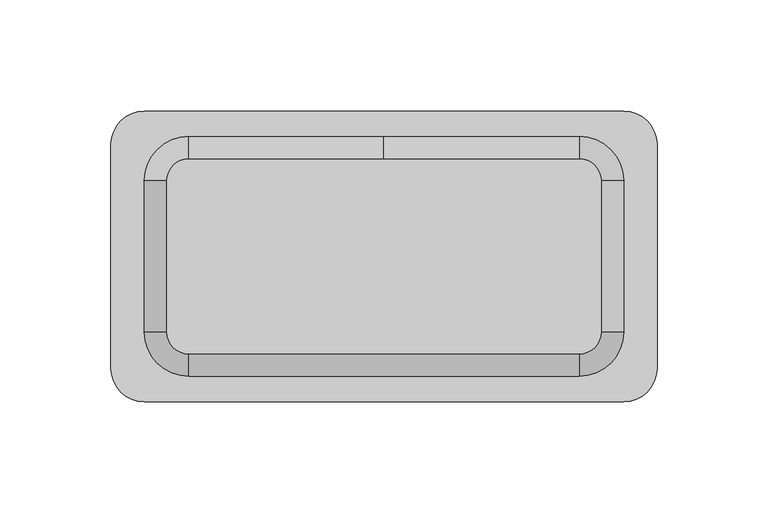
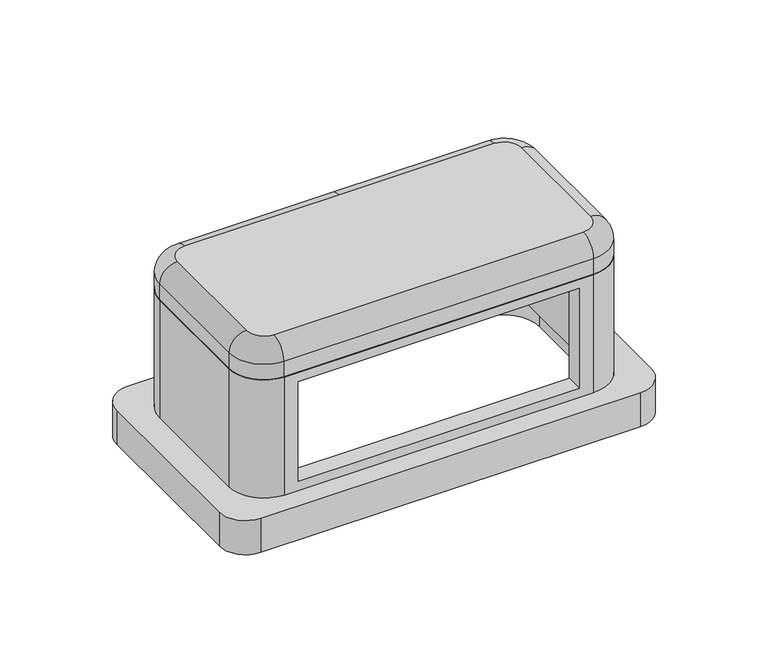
"""IFC4 building model written with IfcOpenShell, lengths in millimetres: proxy geometry, КНС_НапольнаяДвухсторонняяБашенкаBUS_ILF_DKC : Напольная двухсторонняя башенка BUS_ILF_DKC."""

from ifc_helpers import new_model, si_unit, point, frame, frame_2d, origin, origin_with_axes, place, context, project, spatial, polyline, circle_curve, ellipse_curve, trimmed, segment, composite_curve, outline, extrude, source, transform, mapped, element, save
from ifc_brep_helpers import plane_surface, cylinder_surface, revolved_surface, advanced_brep


def electrical_fixtures_2df1c550(model_context):
    return source(origin(), model_context, "Body", "SolidModel", [
        advanced_brep(
        [(88.0, 54.0, 91.5), (-88.0, 54.0, 91.5), (-108.0, 34.0, 91.5), (-108.0, -34.0, 91.5), (-88.0, -54.0, 91.5), (88.0, -54.0, 91.5), (108.0, -34.0, 91.5), (108.0, 34.0, 91.5), (88.0, 44.0, 91.5), (98.0, 34.0, 91.5), (98.0, -34.0, 91.5), (88.0, -44.0, 91.5), (-88.0, -44.0, 91.5), (-98.0, -34.0, 91.5), (-98.0, 34.0, 91.5), (-88.0, 44.0, 91.5), (88.0, 54.0, 20.5), (108.0, 34.0, 20.5), (108.0, -34.0, 20.5), (88.0, -54.0, 20.5), (-88.0, -54.0, 20.5), (-108.0, -34.0, 20.5), (-108.0, 34.0, 20.5), (-88.0, 54.0, 20.5), (88.0, 44.0, 20.5), (-88.0, 44.0, 20.5), (-98.0, 34.0, 20.5), (-98.0, -34.0, 20.5), (-88.0, -44.0, 20.5), (88.0, -44.0, 20.5), (98.0, -34.0, 20.5), (98.0, 34.0, 20.5), (-80.0, -54.0, 86.0), (80.0, -54.0, 86.0), (80.0, -54.0, 26.0), (-80.0, -54.0, 26.0), (80.0, -44.0, 86.0), (-80.0, -44.0, 86.0), (-80.0, -44.0, 26.0), (80.0, -44.0, 26.0)],
        [
            (0, 1),
            (1, 2, circle_curve(frame((-88.0, 34.0, 91.5), z_axis=(0.0, 0.0, 1.0), x_axis=(1.0, 0.0, 0.0)), 20.0)),
            (2, 3),
            (3, 4, circle_curve(frame((-88.0, -34.0, 91.5), z_axis=(0.0, 0.0, 1.0), x_axis=(1.0, 0.0, 0.0)), 20.0)),
            (4, 5),
            (5, 6, circle_curve(frame((88.0, -34.0, 91.5), z_axis=(0.0, 0.0, 1.0), x_axis=(1.0, 0.0, 0.0)), 20.0)),
            (6, 7),
            (7, 0, circle_curve(frame((88.0, 34.0, 91.5), z_axis=(0.0, 0.0, 1.0), x_axis=(1.0, 0.0, 0.0)), 20.0)),
            (8, 9, circle_curve(frame((88.0, 34.0, 91.5), z_axis=(0.0, 0.0, -1.0), x_axis=(1.0, 0.0, 0.0)), 10.0)),
            (9, 10),
            (10, 11, circle_curve(frame((88.0, -34.0, 91.5), z_axis=(0.0, 0.0, -1.0), x_axis=(1.0, 0.0, 0.0)), 10.0)),
            (11, 12),
            (12, 13, circle_curve(frame((-88.0, -34.0, 91.5), z_axis=(0.0, 0.0, -1.0), x_axis=(1.0, 0.0, 0.0)), 10.0)),
            (13, 14),
            (14, 15, circle_curve(frame((-88.0, 34.0, 91.5), z_axis=(0.0, 0.0, -1.0), x_axis=(1.0, 0.0, 0.0)), 10.0)),
            (15, 8),
            (16, 17, circle_curve(frame((88.0, 34.0, 20.5), z_axis=(0.0, 0.0, -1.0), x_axis=(1.0, 0.0, 0.0)), 20.0)),
            (17, 18),
            (18, 19, circle_curve(frame((88.0, -34.0, 20.5), z_axis=(0.0, 0.0, -1.0), x_axis=(1.0, 0.0, 0.0)), 20.0)),
            (19, 20),
            (20, 21, circle_curve(frame((-88.0, -34.0, 20.5), z_axis=(0.0, 0.0, -1.0), x_axis=(1.0, 0.0, 0.0)), 20.0)),
            (21, 22),
            (22, 23, circle_curve(frame((-88.0, 34.0, 20.5), z_axis=(0.0, 0.0, -1.0), x_axis=(1.0, 0.0, 0.0)), 20.0)),
            (23, 16),
            (24, 25),
            (25, 26, circle_curve(frame((-88.0, 34.0, 20.5), z_axis=(0.0, 0.0, 1.0), x_axis=(1.0, 0.0, 0.0)), 10.0)),
            (26, 27),
            (27, 28, circle_curve(frame((-88.0, -34.0, 20.5), z_axis=(0.0, 0.0, 1.0), x_axis=(1.0, 0.0, 0.0)), 10.0)),
            (28, 29),
            (29, 30, circle_curve(frame((88.0, -34.0, 20.5), z_axis=(0.0, 0.0, 1.0), x_axis=(1.0, 0.0, 0.0)), 10.0)),
            (30, 31),
            (31, 24, circle_curve(frame((88.0, 34.0, 20.5), z_axis=(0.0, 0.0, 1.0), x_axis=(1.0, 0.0, 0.0)), 10.0)),
            (0, 16),
            (23, 1),
            (22, 2),
            (21, 3),
            (20, 4),
            (19, 5),
            (32, 33),
            (33, 34),
            (34, 35),
            (35, 32),
            (18, 6),
            (17, 7),
            (8, 24),
            (31, 9),
            (30, 10),
            (29, 11),
            (28, 12),
            (36, 37),
            (37, 38),
            (38, 39),
            (39, 36),
            (27, 13),
            (26, 14),
            (25, 15),
            (32, 37),
            (36, 33),
            (35, 38),
            (34, 39),
        ],
        [
            plane_surface(frame((-108.0, 54.0, 91.5), z_axis=(0.0, 0.0, 1.0), x_axis=(-1.0, 0.0, 0.0))),
            plane_surface(frame((-108.0, 54.0, 20.5), z_axis=(0.0, 0.0, -1.0), x_axis=(1.0, 0.0, 0.0))),
            plane_surface(frame((88.0, 54.0, 91.5), z_axis=(0.0, 1.0, 0.0), x_axis=(0.0, 0.0, -1.0))),
            cylinder_surface(frame((-88.0, 34.0, 20.5), z_axis=(0.0, 0.0, 1.0), x_axis=(1.0, 0.0, 0.0)), 20.0),
            plane_surface(frame((-108.0, 34.0, 91.5), z_axis=(-1.0, 0.0, 0.0), x_axis=(0.0, 0.0, -1.0))),
            cylinder_surface(frame((-88.0, -34.0, 20.5), z_axis=(0.0, 0.0, 1.0), x_axis=(1.0, 0.0, 0.0)), 20.0),
            plane_surface(frame((-88.0, -54.0, 91.5), z_axis=(0.0, -1.0, 0.0), x_axis=(0.0, 0.0, -1.0))),
            cylinder_surface(frame((88.0, -34.0, 20.5), z_axis=(0.0, 0.0, 1.0), x_axis=(1.0, 0.0, 0.0)), 20.0),
            plane_surface(frame((108.0, -34.0, 91.5), z_axis=(1.0, 0.0, 0.0), x_axis=(0.0, 0.0, -1.0))),
            cylinder_surface(frame((88.0, 34.0, 20.5), z_axis=(0.0, 0.0, 1.0), x_axis=(1.0, 0.0, 0.0)), 20.0),
            revolved_surface(polyline([(98.0, 34.0, 20.5), (98.0, 34.0, 91.5)]), (88.0, 34.0, 20.5), (0.0, 0.0, -1.0)),
            plane_surface(frame((98.0, 34.0, 91.5), z_axis=(-1.0, 0.0, 0.0), x_axis=(0.0, 0.0, -1.0))),
            revolved_surface(polyline([(98.0, -34.0, 20.5), (98.0, -34.0, 91.5)]), (88.0, -34.0, 20.5), (0.0, 0.0, -1.0)),
            plane_surface(frame((88.0, -44.0, 91.5), z_axis=(0.0, 1.0, 0.0), x_axis=(0.0, 0.0, -1.0))),
            revolved_surface(polyline([(-78.0, -34.0, 20.5), (-78.0, -34.0, 91.5)]), (-88.0, -34.0, 20.5), (0.0, 0.0, -1.0)),
            plane_surface(frame((-98.0, -34.0, 91.5), z_axis=(1.0, 0.0, 0.0), x_axis=(0.0, 0.0, -1.0))),
            revolved_surface(polyline([(-78.0, 34.0, 20.5), (-78.0, 34.0, 91.5)]), (-88.0, 34.0, 20.5), (0.0, 0.0, -1.0)),
            plane_surface(frame((-88.0, 44.0, 91.5), z_axis=(0.0, -1.0, 0.0), x_axis=(0.0, 0.0, -1.0))),
            plane_surface(frame((80.0, -54.0, 86.0), z_axis=(0.0, 0.0, -1.0), x_axis=(0.0, 1.0, 0.0))),
            plane_surface(frame((-80.0, -54.0, 86.0), z_axis=(1.0, 0.0, 0.0), x_axis=(0.0, 1.0, 0.0))),
            plane_surface(frame((-80.0, -54.0, 26.0), z_axis=(0.0, 0.0, 1.0), x_axis=(0.0, 1.0, 0.0))),
            plane_surface(frame((80.0, -54.0, 26.0), z_axis=(-1.0, 0.0, 0.0), x_axis=(0.0, 1.0, 0.0))),
        ],
        [
            (0, [[1, 2, 3, 4, 5, 6, 7, 8], [9, 10, 11, 12, 13, 14, 15, 16]]),
            (1, [[17, 18, 19, 20, 21, 22, 23, 24], [25, 26, 27, 28, 29, 30, 31, 32]]),
            (2, [[-1, 33, -24, 34]]),
            (3, [[-2, -34, -23, 35]]),
            (4, [[-3, -35, -22, 36]]),
            (5, [[-4, -36, -21, 37]]),
            (6, [[-5, -37, -20, 38], [39, 40, 41, 42]]),
            (7, [[-6, -38, -19, 43]]),
            (8, [[-7, -43, -18, 44]]),
            (9, [[-8, -44, -17, -33]]),
            (10, [[-9, 45, -32, 46]]),
            (11, [[-10, -46, -31, 47]]),
            (12, [[-11, -47, -30, 48]]),
            (13, [[-12, -48, -29, 49], [50, 51, 52, 53]]),
            (14, [[-13, -49, -28, 54]]),
            (15, [[-14, -54, -27, 55]]),
            (16, [[-15, -55, -26, 56]]),
            (17, [[-16, -56, -25, -45]]),
            (18, [[57, -50, 58, -39]]),
            (19, [[-57, -42, 59, -51]]),
            (20, [[-59, -41, 60, -52]]),
            (21, [[-58, -53, -60, -40]]),
        ],
    ),
        advanced_brep(
        [(-108.0, 34.0, 101.0), (-108.0, 34.0, 91.5), (-108.0, -34.0, 91.5), (-108.0, -34.0, 101.0), (-98.0, -34.0, 111.0), (-98.0, 34.0, 111.0), (-88.0, -54.0, 101.0), (-88.0, -54.0, 91.5), (88.0, -54.0, 91.5), (88.0, -54.0, 101.0), (88.0, -44.0, 111.0), (-88.0, -44.0, 111.0), (108.0, -34.0, 101.0), (108.0, -34.0, 91.5), (108.0, 34.0, 91.5), (108.0, 34.0, 101.0), (98.0, 34.0, 111.0), (98.0, -34.0, 111.0), (88.0, 54.0, 101.0), (88.0, 54.0, 91.5), (-88.0, 54.0, 91.5), (-88.0, 54.0, 101.0), (0.0, 54.0, 101.0), (0.0, 44.0, 111.0), (88.0, 44.0, 111.0), (-88.0, 44.0, 111.0)],
        [
            (0, 1),
            (1, 2),
            (2, 3),
            (3, 0),
            (3, 4, circle_curve(frame((-98.0, -34.0, 101.0), z_axis=(0.0, 1.0, 0.0), x_axis=(1.0, 0.0, 0.0)), 10.0)),
            (4, 5),
            (5, 0, circle_curve(frame((-98.0, 34.0, 101.0), z_axis=(0.0, -1.0, 0.0), x_axis=(1.0, 0.0, 0.0)), 10.0)),
            (6, 7),
            (7, 8),
            (8, 9),
            (9, 6),
            (9, 10, circle_curve(frame((88.0, -44.0, 101.0), z_axis=(-1.0, 0.0, 0.0), x_axis=(0.0, 1.0, 0.0)), 10.0)),
            (10, 11),
            (11, 6, circle_curve(frame((-88.0, -44.0, 101.0), z_axis=(1.0, 0.0, 0.0), x_axis=(0.0, 1.0, 0.0)), 10.0)),
            (12, 13),
            (13, 14),
            (14, 15),
            (15, 12),
            (15, 16, circle_curve(frame((98.0, 34.0, 101.0), z_axis=(0.0, -1.0, 0.0), x_axis=(-1.0, 0.0, 0.0)), 10.0)),
            (16, 17),
            (17, 12, circle_curve(frame((98.0, -34.0, 101.0), z_axis=(0.0, 1.0, 0.0), x_axis=(-1.0, 0.0, 0.0)), 10.0)),
            (18, 19),
            (19, 20),
            (20, 21),
            (21, 22),
            (22, 18),
            (22, 23, circle_curve(frame((0.0, 44.0, 101.0), z_axis=(1.0, 0.0, 0.0), x_axis=(0.0, -1.0, 0.0)), 10.0)),
            (23, 24),
            (24, 18, circle_curve(frame((88.0, 44.0, 101.0), z_axis=(-1.0, 0.0, 0.0), x_axis=(0.0, -1.0, 0.0)), 10.0)),
            (21, 25, circle_curve(frame((-88.0, 44.0, 101.0), z_axis=(1.0, 0.0, 0.0), x_axis=(0.0, -1.0, 0.0)), 10.0)),
            (25, 23),
            (0, 21, circle_curve(frame((-88.0, 34.0, 101.0), z_axis=(0.0, 0.0, -1.0), x_axis=(0.0, 1.0, 0.0)), 20.0)),
            (20, 1, circle_curve(frame((-88.0, 34.0, 91.5), z_axis=(0.0, 0.0, 1.0), x_axis=(0.0, 1.0, 0.0)), 20.0)),
            (5, 25, circle_curve(frame((-88.0, 34.0, 111.0), z_axis=(0.0, 0.0, -1.0), x_axis=(0.0, 1.0, 0.0)), 10.0)),
            (2, 7, circle_curve(frame((-88.0, -34.0, 91.5), z_axis=(0.0, 0.0, 1.0), x_axis=(-1.0, 0.0, 0.0)), 20.0)),
            (6, 3, circle_curve(frame((-88.0, -34.0, 101.0), z_axis=(0.0, 0.0, -1.0), x_axis=(-1.0, 0.0, 0.0)), 20.0)),
            (11, 4, circle_curve(frame((-88.0, -34.0, 111.0), z_axis=(0.0, 0.0, -1.0), x_axis=(-1.0, 0.0, 0.0)), 10.0)),
            (8, 13, circle_curve(frame((88.0, -34.0, 91.5), z_axis=(0.0, 0.0, 1.0), x_axis=(0.0, -1.0, 0.0)), 20.0)),
            (12, 9, circle_curve(frame((88.0, -34.0, 101.0), z_axis=(0.0, 0.0, -1.0), x_axis=(0.0, -1.0, 0.0)), 20.0)),
            (17, 10, circle_curve(frame((88.0, -34.0, 111.0), z_axis=(0.0, 0.0, -1.0), x_axis=(0.0, -1.0, 0.0)), 10.0)),
            (14, 19, circle_curve(frame((88.0, 34.0, 91.5), z_axis=(0.0, 0.0, 1.0), x_axis=(1.0, 0.0, 0.0)), 20.0)),
            (18, 15, circle_curve(frame((88.0, 34.0, 101.0), z_axis=(0.0, 0.0, -1.0), x_axis=(1.0, 0.0, 0.0)), 20.0)),
            (24, 16, circle_curve(frame((88.0, 34.0, 111.0), z_axis=(0.0, 0.0, -1.0), x_axis=(1.0, 0.0, 0.0)), 10.0)),
        ],
        [
            plane_surface(frame((-108.0, 34.0, 91.5), z_axis=(-1.0, 0.0, 0.0), x_axis=(0.0, -1.0, 0.0))),
            cylinder_surface(frame((-98.0, 34.0, 101.0), z_axis=(0.0, 1.0, 0.0), x_axis=(1.0, 0.0, 0.0)), 10.0),
            plane_surface(frame((-88.0, -54.0, 91.5), z_axis=(0.0, -1.0, 0.0), x_axis=(1.0, 0.0, 0.0))),
            cylinder_surface(frame((-88.0, -44.0, 101.0), z_axis=(-1.0, 0.0, 0.0), x_axis=(0.0, 1.0, 0.0)), 10.0),
            plane_surface(frame((108.0, -34.0, 91.5), z_axis=(1.0, 0.0, 0.0), x_axis=(0.0, 1.0, 0.0))),
            cylinder_surface(frame((98.0, -34.0, 101.0), z_axis=(0.0, -1.0, 0.0), x_axis=(-1.0, 0.0, 0.0)), 10.0),
            plane_surface(frame((88.0, 54.0, 91.5), z_axis=(0.0, 1.0, 0.0), x_axis=(-1.0, 0.0, 0.0))),
            cylinder_surface(frame((88.0, 44.0, 101.0), z_axis=(1.0, 0.0, 0.0), x_axis=(0.0, -1.0, 0.0)), 10.0),
            cylinder_surface(frame((0.0, 44.0, 101.0), z_axis=(1.0, 0.0, 0.0), x_axis=(0.0, -1.0, 0.0)), 10.0),
            cylinder_surface(frame((-88.0, 34.0, 0.0), z_axis=(0.0, 0.0, 1.0), x_axis=(0.0, 1.0, 0.0)), 20.0),
            revolved_surface(trimmed(ellipse_curve(frame((-88.0, 44.0, 101.0), z_axis=(1.0, 0.0, 0.0), x_axis=(0.0, -1.0, 0.0)), 10.0, 10.0), [point((-88.0, 54.0, 101.0))], [point((-88.0, 44.0, 111.0))], True, "CARTESIAN"), (-88.0, 34.0, 0.0), (0.0, 0.0, 1.0)),
            cylinder_surface(frame((-88.0, -34.0, 0.0), z_axis=(0.0, 0.0, 1.0), x_axis=(-1.0, 0.0, 0.0)), 20.0),
            revolved_surface(trimmed(ellipse_curve(frame((-98.0, -34.0, 101.0), z_axis=(0.0, 1.0, 0.0), x_axis=(1.0, 0.0, 0.0)), 10.0, 10.0), [point((-108.0, -34.0, 101.0))], [point((-98.0, -34.0, 111.0))], True, "CARTESIAN"), (-88.0, -34.0, 0.0), (0.0, 0.0, 1.0)),
            cylinder_surface(frame((88.0, -34.0, 0.0), z_axis=(0.0, 0.0, 1.0), x_axis=(0.0, -1.0, 0.0)), 20.0),
            revolved_surface(trimmed(ellipse_curve(frame((88.0, -44.0, 101.0), z_axis=(-1.0, 0.0, 0.0), x_axis=(0.0, 1.0, 0.0)), 10.0, 10.0), [point((88.0, -54.0, 101.0))], [point((88.0, -44.0, 111.0))], True, "CARTESIAN"), (88.0, -34.0, 0.0), (0.0, 0.0, 1.0)),
            cylinder_surface(frame((88.0, 34.0, 0.0), z_axis=(0.0, 0.0, 1.0), x_axis=(1.0, 0.0, 0.0)), 20.0),
            revolved_surface(trimmed(ellipse_curve(frame((98.0, 34.0, 101.0), z_axis=(0.0, -1.0, 0.0), x_axis=(-1.0, 0.0, 0.0)), 10.0, 10.0), [point((108.0, 34.0, 101.0))], [point((98.0, 34.0, 111.0))], True, "CARTESIAN"), (88.0, 34.0, 0.0), (0.0, 0.0, 1.0)),
            plane_surface(frame((88.0, 34.0, 91.5), z_axis=(0.0, 0.0, -1.0), x_axis=(1.0, 0.0, 0.0))),
            plane_surface(frame((-78.0, 34.0, 111.0), z_axis=(0.0, 0.0, 1.0), x_axis=(0.0, 1.0, 0.0))),
        ],
        [
            (0, [[1, 2, 3, 4]]),
            (1, [[-4, 5, 6, 7]]),
            (2, [[8, 9, 10, 11]]),
            (3, [[-11, 12, 13, 14]]),
            (4, [[15, 16, 17, 18]]),
            (5, [[-18, 19, 20, 21]]),
            (6, [[22, 23, 24, 25, 26]]),
            (7, [[-26, 27, 28, 29]]),
            (8, [[-25, 30, 31, -27]]),
            (9, [[-1, 32, -24, 33]]),
            (10, [[-7, 34, -30, -32]]),
            (11, [[-3, 35, -8, 36]]),
            (12, [[-5, -36, -14, 37]]),
            (13, [[-10, 38, -15, 39]]),
            (14, [[-12, -39, -21, 40]]),
            (15, [[-17, 41, -22, 42]]),
            (16, [[-19, -42, -29, 43]]),
            (17, [[-2, -33, -23, -41, -16, -38, -9, -35]]),
            (18, [[-6, -37, -13, -40, -20, -43, -28, -31, -34]]),
        ],
    ),
        extrude(outline(composite_curve([segment(trimmed(circle_curve(frame_2d((108.0, 50.5)), 15.0), [point((108.0, 65.5))], [point((123.0, 50.5))], False, "CARTESIAN"), True, "CONTINUOUS"), segment(polyline([(123.0, 50.5), (123.0, -50.5)]), True, "CONTINUOUS"), segment(trimmed(circle_curve(frame_2d((108.0, -50.5)), 15.0), [point((123.0, -50.5))], [point((108.0, -65.5))], False, "CARTESIAN"), True, "CONTINUOUS"), segment(polyline([(108.0, -65.5), (-108.0, -65.5)]), True, "CONTINUOUS"), segment(trimmed(circle_curve(frame_2d((-108.0, -50.5)), 15.0), [point((-108.0, -65.5))], [point((-123.0, -50.5))], False, "CARTESIAN"), True, "CONTINUOUS"), segment(polyline([(-123.0, -50.5), (-123.0, 50.5)]), True, "CONTINUOUS"), segment(trimmed(circle_curve(frame_2d((-108.0, 50.5)), 15.0), [point((-123.0, 50.5))], [point((-108.0, 65.5))], False, "CARTESIAN"), True, "CONTINUOUS"), segment(polyline([(-108.0, 65.5), (108.0, 65.5)]), True, "CONTINUOUS")], self_intersect=False), holes=[composite_curve([segment(polyline([(88.0, 54.0), (-88.0, 54.0)]), True, "CONTINUOUS"), segment(trimmed(circle_curve(frame_2d((-88.0, 34.0)), 20.0), [point((-88.0, 54.0))], [point((-108.0, 34.0))], True, "CARTESIAN"), True, "CONTINUOUS"), segment(polyline([(-108.0, 34.0), (-108.0, -34.0)]), True, "CONTINUOUS"), segment(trimmed(circle_curve(frame_2d((-88.0, -34.0)), 20.0), [point((-108.0, -34.0))], [point((-88.0, -54.0))], True, "CARTESIAN"), True, "CONTINUOUS"), segment(polyline([(-88.0, -54.0), (88.0, -54.0)]), True, "CONTINUOUS"), segment(trimmed(circle_curve(frame_2d((88.0, -34.0)), 20.0), [point((88.0, -54.0))], [point((108.0, -34.0))], True, "CARTESIAN"), True, "CONTINUOUS"), segment(polyline([(108.0, -34.0), (108.0, 34.0)]), True, "CONTINUOUS"), segment(trimmed(circle_curve(frame_2d((88.0, 34.0)), 20.0), [point((108.0, 34.0))], [point((88.0, 54.0))], True, "CARTESIAN"), True, "CONTINUOUS")], self_intersect=False)]), origin_with_axes(), (0.0, 0.0, 1.0), 20.5),
    ])


if __name__ == "__main__":
    model = new_model("IFC4")
    model_context = context("Model", 3, world=origin())
    ifc_project = project(units=[si_unit("LENGTHUNIT", "METRE", prefix="MILLI")], contexts=[model_context])
    site = spatial("IfcSite", under=ifc_project)
    building = spatial("IfcBuilding", under=site)
    placement = place(None, origin())
    electrical_fixtures_shape = electrical_fixtures_2df1c550(model_context)
    element("IfcBuildingElementProxy", 1, Name="КНС_НапольнаяДвухсторонняяБашенкаBUS_ILF_DKC : Напольная двухсторонняя башенка BUS_ILF_DKC", ObjectType="КНС_НапольнаяДвухсторонняяБашенкаBUS_ILF_DKC : Напольная двухсторонняя башенка BUS_ILF_DKC", at=placement, inside=building, context=model_context, shape_type="MappedRepresentation", body=[
        mapped(electrical_fixtures_shape, transform((0.0, 0.0, 0.0), x_axis=(1.0, 0.0, 0.0), y_axis=(0.0, 1.0, 0.0), z_axis=(0.0, 0.0, 1.0))),
    ])
    save(model, "model.ifc")
